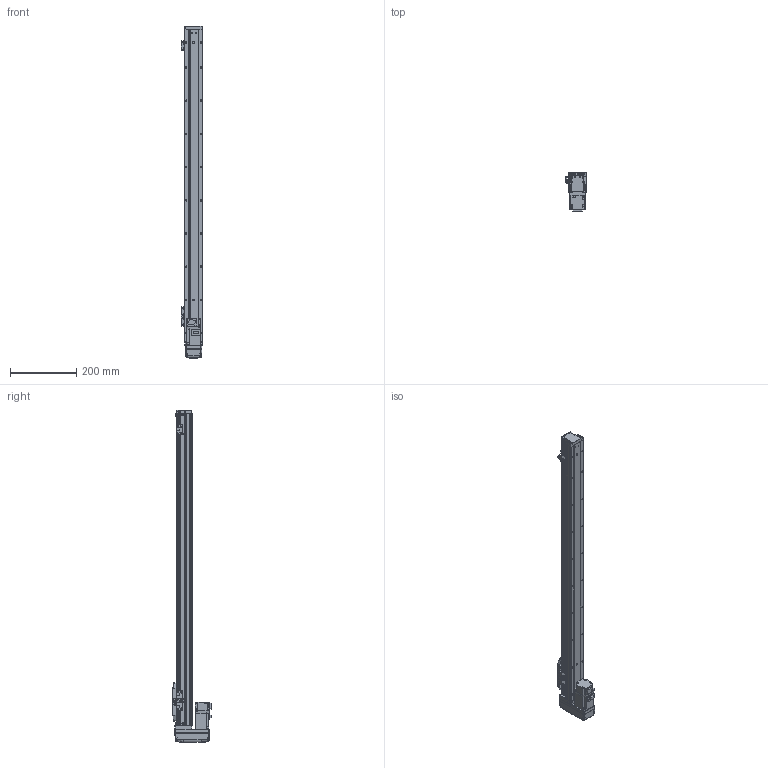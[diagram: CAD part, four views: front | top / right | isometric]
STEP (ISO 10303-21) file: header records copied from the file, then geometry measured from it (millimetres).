
FILE_DESCRIPTION (( 'STEP AP203' ), '1' );
FILE_NAME ('GTH5-800-BM-M10-C4.step', '2022-09-23T00:48:48', ( '微软用户' ), ( '微软中国' ), 'SwSTEP 2.0', 'SolidWorks 2020', '' );
FILE_SCHEMA (( 'CONFIG_CONTROL_DESIGN' ));
Length unit declared in the file: millimetre
Products named in the file (19): GTH50-006; GTH50-013; GTH50-022-1; GTH50-004; GTH50-023; HG-KR13; GBT 70.3-M3℅6; GBT 70.1-M3℅6; GTH50-027-1_BTHA50-027-2; BTH-M3X5X6; GBT96.1-2002 3×0.8; GTH50-026; GTH50-001_800; GTH50-024; GTH5-800-BM-M10-C4; GBT 70.1-M4×16; GBT 70.1-M2.5×6; GTH50-003; GTH50-028
Assembly tree (57 placements, depth 2):
  GTH5-800-BM-M10-C4
    GTH50-006
    GTH50-004
    GBT 70.3-M3℅6  x4
    BTH-M3X5X6  x8
    GTH50-001_800
    GBT 70.1-M4×16  x8
    GTH50-003
    GTH50-013
    GTH50-023  x3
    GBT 70.1-M3℅6  x12
    GBT96.1-2002 3×0.8  x6
    GTH50-024  x3
    GBT 70.1-M2.5×6  x2
    GTH50-028  x2
    GTH50-022-1
    HG-KR13
    GTH50-027-1_BTHA50-027-2
    GTH50-026
Bounding box: 63.8 x 118.9 x 1000 mm (x, y, z)
Volume: 2225928 mm3; surface area: 353194.4 mm2
Topology: 59 solids, 59 shells, 2168 faces, 5040 edges, 3092 vertices
Faces by surface type: plane 1142, cylinder 597, cone 219, torus 162, bspline 40, sphere 8
Entity records: 40456 total; most frequent: CARTESIAN_POINT 7995, DIRECTION 6241, ORIENTED_EDGE 5994, EDGE_CURVE 2997, AXIS2_PLACEMENT_3D 2176, VERTEX_POINT 1894, LINE 1889, VECTOR 1889
